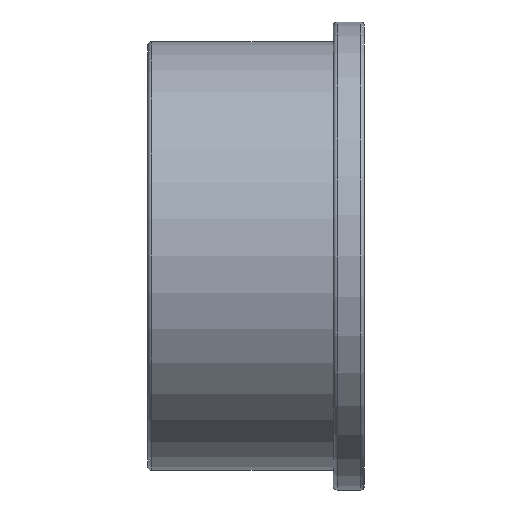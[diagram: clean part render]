
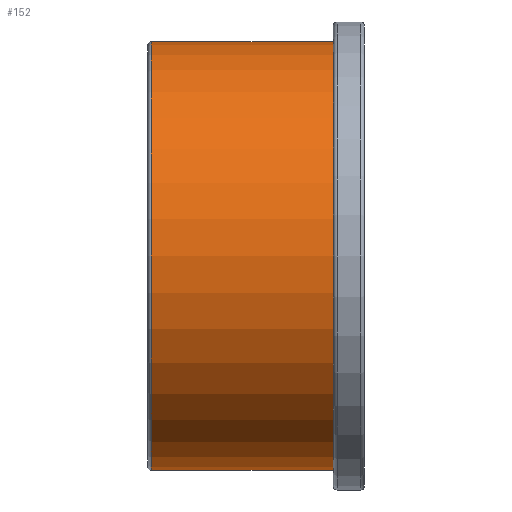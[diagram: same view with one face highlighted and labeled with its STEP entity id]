
A CAD part, front view. The second image highlights one B-rep face of the part: STEP entity #152.
In plain terms, the highlighted cylindrical face has radius 124.5 mm (diameter 249 mm), a full revolution.
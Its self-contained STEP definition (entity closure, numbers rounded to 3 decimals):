
#21=CYLINDRICAL_SURFACE('',#176,124.5);
#30=FACE_BOUND('',#64,.T.);
#43=FACE_OUTER_BOUND('',#63,.T.);
#63=EDGE_LOOP('',(#128));
#64=EDGE_LOOP('',(#129));
#78=CIRCLE('',#166,124.5);
#83=CIRCLE('',#175,124.5);
#91=VERTEX_POINT('',#250);
#96=VERTEX_POINT('',#264);
#104=EDGE_CURVE('',#91,#91,#78,.T.);
#109=EDGE_CURVE('',#96,#96,#83,.T.);
#128=ORIENTED_EDGE('',*,*,#104,.T.);
#129=ORIENTED_EDGE('',*,*,#109,.F.);
#152=ADVANCED_FACE('',(#43,#30),#21,.T.);
#166=AXIS2_PLACEMENT_3D('',#251,#200,#201);
#175=AXIS2_PLACEMENT_3D('',#265,#218,#219);
#176=AXIS2_PLACEMENT_3D('',#266,#220,#221);
#200=DIRECTION('center_axis',(-1.,0.,0.));
#201=DIRECTION('ref_axis',(0.,0.,1.));
#218=DIRECTION('center_axis',(-1.,0.,0.));
#219=DIRECTION('ref_axis',(0.,1.,0.));
#220=DIRECTION('center_axis',(-1.,0.,0.));
#221=DIRECTION('ref_axis',(0.,-1.,0.));
#250=CARTESIAN_POINT('',(108.,-124.5,0.));
#251=CARTESIAN_POINT('Origin',(108.,0.,0.));
#264=CARTESIAN_POINT('',(2.25,-124.5,0.));
#265=CARTESIAN_POINT('Origin',(2.25,0.,0.));
#266=CARTESIAN_POINT('Origin',(54.,0.,0.));
